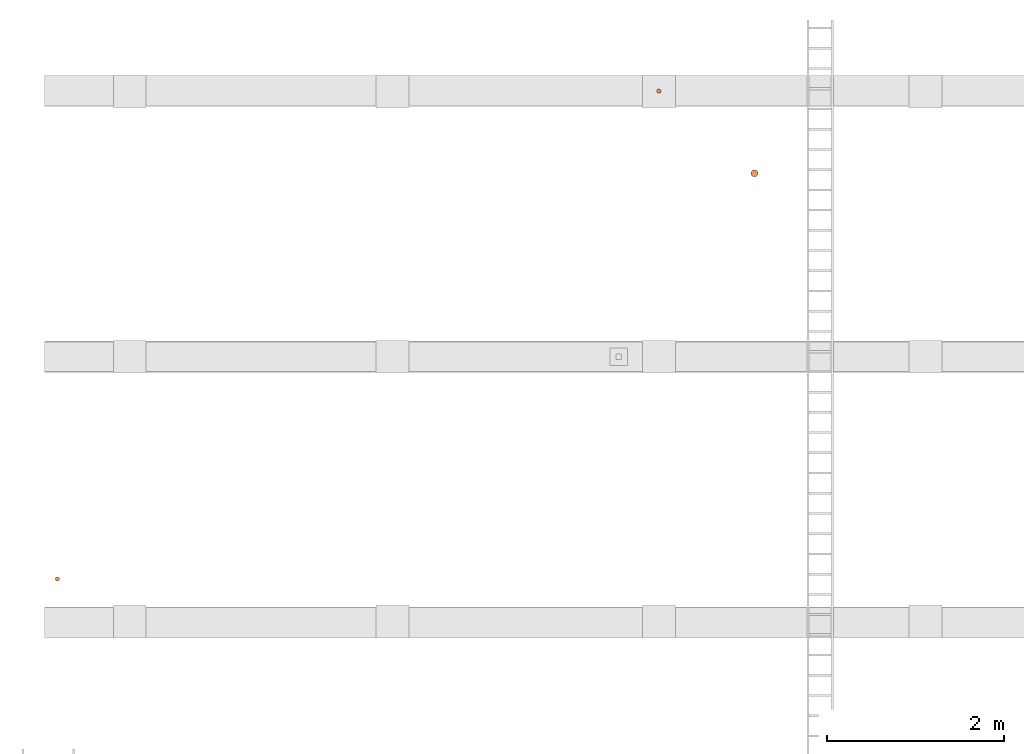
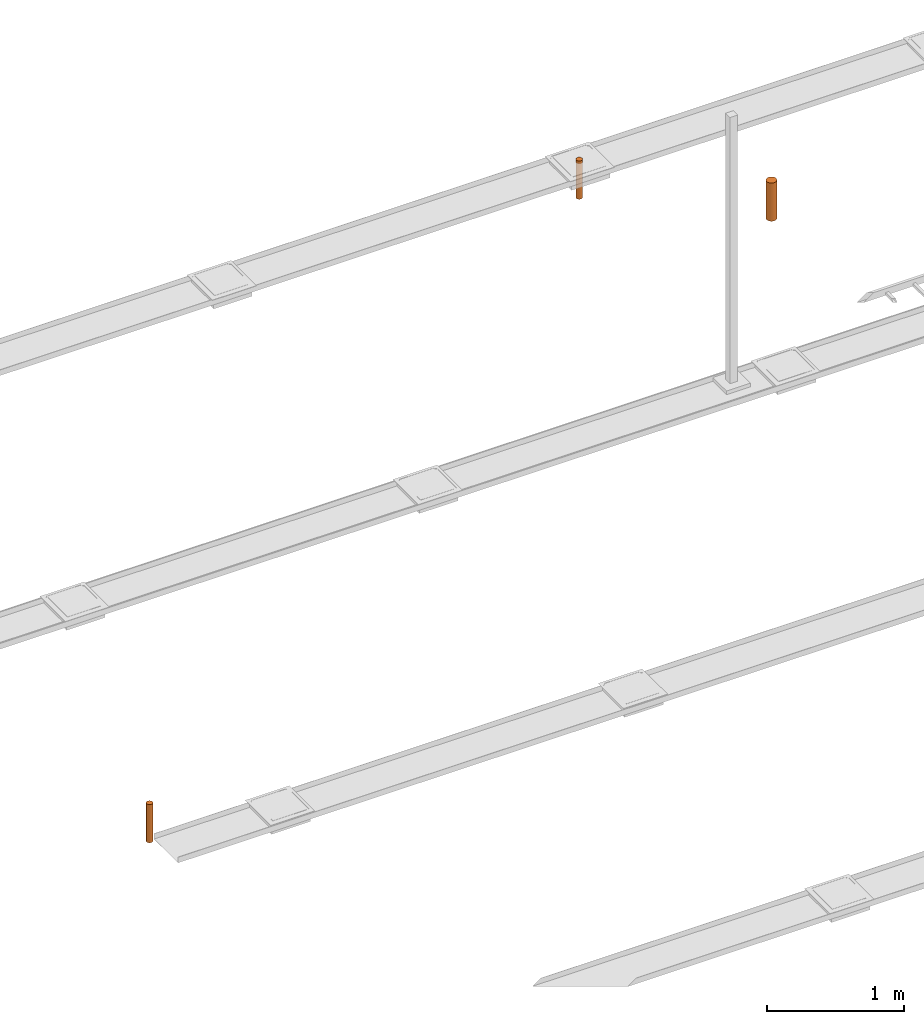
# One storey, part 16 of 16: 3 proxies.
"""IFC2X3 building model written with IfcOpenShell, lengths in millimetres."""

from ifc_helpers import new_model, entity, si_unit, converted_unit, derived_unit, direction, frame, origin_with_axes, origin_2d_with_axis, place, context, subcontext, project, spatial, circle, extrude, source, transform, mapped, element, save


model = new_model("IFC2X3")

# Units and contexts
model_context = context("Model", 3, precision=0.01, world=frame((0.0, 4.29681676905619e-09, 0.0)), true_north=direction((4.01073788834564e-13, 1.0)))
plan_context = context("Plan", 3, precision=0.01, world=frame((0.0, 4.29681676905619e-09, 0.0)), true_north=direction((4.01073788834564e-13, 1.0)))
body_context = subcontext(model_context, "Body", "Model", "MODEL_VIEW")
ifc_project = project(units=[converted_unit("PLANEANGLEUNIT", "DEGREE", entity("IfcPositiveLengthMeasure", 0.0174532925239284), si_unit("PLANEANGLEUNIT", "RADIAN"), dimensions=[0, 0, 0, 0, 0, 0, 0]), si_unit("AREAUNIT", "SQUARE_METRE"), si_unit("LENGTHUNIT", "METRE", prefix="MILLI"), si_unit("MASSUNIT", "GRAM", prefix="KILO"), si_unit("POWERUNIT", "WATT"), si_unit("PRESSUREUNIT", "PASCAL"), si_unit("FORCEUNIT", "NEWTON", prefix="KILO"), si_unit("ELECTRICVOLTAGEUNIT", "VOLT"), si_unit("ELECTRICCURRENTUNIT", "AMPERE"), si_unit("THERMODYNAMICTEMPERATUREUNIT", "DEGREE_CELSIUS"), si_unit("TIMEUNIT", "SECOND"), si_unit("VOLUMEUNIT", "CUBIC_METRE"), derived_unit("LINEARVELOCITYUNIT", [(si_unit("LENGTHUNIT", "METRE"), 1), (si_unit("TIMEUNIT", "SECOND"), -1)]), derived_unit("VOLUMETRICFLOWRATEUNIT", [(si_unit("VOLUMEUNIT", "CUBIC_METRE"), 1), (si_unit("TIMEUNIT", "SECOND"), -1)]), derived_unit("THERMALTRANSMITTANCEUNIT", [(si_unit("POWERUNIT", "WATT"), 1), (si_unit("THERMODYNAMICTEMPERATUREUNIT", "KELVIN"), -1), (si_unit("AREAUNIT", "SQUARE_METRE"), -1)]), derived_unit("SOUNDPRESSUREUNIT", [(si_unit("PRESSUREUNIT", "PASCAL"), 1)])], contexts=[model_context, plan_context])

# Site, building, storey
site_placement = place(None, frame((0.0, -4.29681676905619e-09, 0.0), z_axis=(0.0, 0.0, 1.0), x_axis=(1.0, 0.0, 0.0)))
site = spatial("IfcSite", under=ifc_project, at=site_placement, Name="ENGM", CompositionType="ELEMENT")
building_placement = place(site_placement, frame((0.0, 4.29681676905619e-09, 0.0), z_axis=(0.0, 0.0, 1.0), x_axis=(1.0, 0.0, 0.0)))
building = spatial("IfcBuilding", under=site, at=building_placement, Name="TS", CompositionType="ELEMENT")
storey_placement = place(building_placement, frame((0.0, 0.0, 210900.0), z_axis=(0.0, 0.0, 1.0), x_axis=(1.0, 0.0, 0.0)))
storey = spatial("IfcBuildingStorey", under=building, at=storey_placement, Name="Nivå F", CompositionType="ELEMENT", Elevation=210900.0)

# Proxies
shared_shape_1 = source(origin_with_axes(), body_context, "Body", "SweptSolid", [
    extrude(circle(Radius=40.0, at=origin_2d_with_axis()), frame((0.0, 0.0, 0.0), z_axis=(1.0, 0.0, 0.0), x_axis=(0.0, 1.0, 0.0)), (0.0, 0.0, 1.0), 340.0),
])
proxy_placement = place(storey_placement, frame((528570.46591, 460074.80297, 20.0), z_axis=(0.0, 1.0, 0.0), x_axis=(0.0, 0.0, -1.0)))
element("IfcBuildingElementProxy", 1, at=proxy_placement, inside=storey, Name="Round Vertical", ObjectType="ProvisionForVoid", CompositionType="ELEMENT", context=body_context, shape_type="MappedRepresentation", body=[
    mapped(shared_shape_1, transform((0.0, 0.0, 0.0), scale=1.0)),
])
shared_shape_2 = source(origin_with_axes(), body_context, "Body", "SweptSolid", [
    extrude(circle(Radius=25.0, at=origin_2d_with_axis()), frame((0.0, 0.0, 0.0), z_axis=(1.0, 0.0, 0.0), x_axis=(0.0, 1.0, 0.0)), (0.0, 0.0, 1.0), 340.0),
])
for number, where, z_axis, x_axis, name in (
    (2, (527490.0, 461004.02514, 20.0), (0.0, 1.0, 0.0), (0.0, 0.0, -1.0), "Round Vertical"),
    (3, (520691.0, 455489.0, 20.0), (0.0, 1.0, 0.0), (0.0, 0.0, -1.0), "Round Vertical"),
):
    element("IfcBuildingElementProxy", number, at=place(storey_placement, frame(where, z_axis=z_axis, x_axis=x_axis)), inside=storey, Name=name, ObjectType="ProvisionForVoid", CompositionType="ELEMENT", context=body_context, shape_type="MappedRepresentation", body=[
        mapped(shared_shape_2, transform((0.0, 0.0, 0.0), scale=1.0)),
    ])

save(model, "model.ifc")
